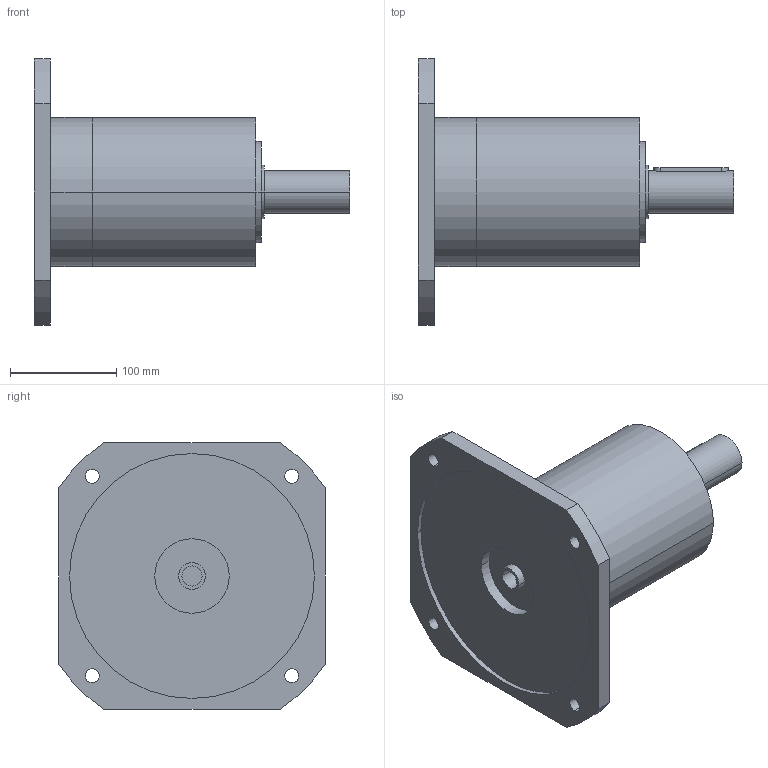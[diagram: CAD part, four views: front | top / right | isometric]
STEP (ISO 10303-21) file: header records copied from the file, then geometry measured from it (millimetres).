
FILE_DESCRIPTION(('CoCreate Modeling STEP Export'),'2;1');
FILE_NAME('GPR150_ig-9-12-16-20-28-35_40_B14_19_P07.stp','2014-08-19T17:03:18',(''),(''),'CoCreate Modeling STEP processor for AP214 (Solid Model)','CoCreate Modeling 16.00C 25-Feb-2009 (C) Parametric Technology GmbH','');
FILE_SCHEMA(('AUTOMOTIVE_DESIGN { 1 0 10303 214 1 1 1 1 }'));
Length unit declared in the file: millimetre
Products named in the file (2): GPR150_ig-9-12-16-20-28-35_40_B14_19_P07
Assembly tree (1 placements, depth 2):
  GPR150_ig-9-12-16-20-28-35_40_B14_19_P07
    GPR150_ig-9-12-16-20-28-35_40_B14_19_P07
Bounding box: 296 x 250 x 250 mm (x, y, z)
Volume: 3750168.5 mm3; surface area: 245159.6 mm2
Topology: 1 solids, 1 shells, 70 faces, 189 edges, 133 vertices
Faces by surface type: cylinder 42, plane 22, cone 6
Entity records: 1973 total; most frequent: CARTESIAN_POINT 386, ORIENTED_EDGE 374, DIRECTION 264, EDGE_CURVE 187, VERTEX_POINT 133, AXIS2_PLACEMENT_3D 99, EDGE_LOOP 92, FACE_OUTER_BOUND 70
